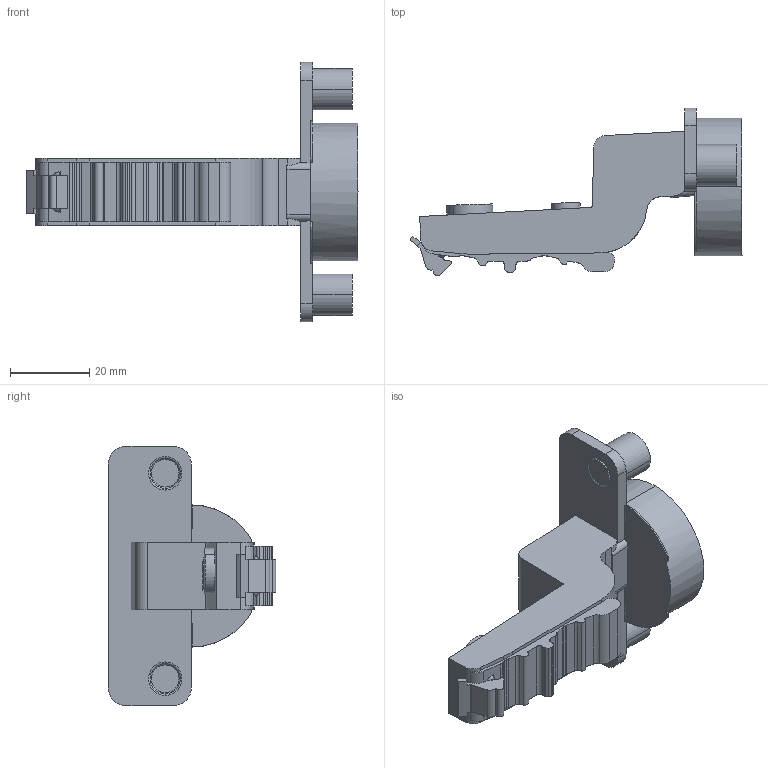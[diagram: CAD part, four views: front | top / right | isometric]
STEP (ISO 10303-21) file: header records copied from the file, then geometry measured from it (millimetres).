
FILE_DESCRIPTION (( 'STEP AP203' ), '1' );
FILE_NAME ('C82C677MFA-DTC 3D close.STEP', '2024-07-10T09:07:12', ( '微软用户' ), ( '微软中国' ), 'SwSTEP 2.0', 'SolidWorks 2021', '' );
FILE_SCHEMA (( 'CONFIG_CONTROL_DESIGN' ));
Length unit declared in the file: millimetre
Products named in the file (1): C82C677MFA-DTC 3D close
Bounding box: 84 x 42.33 x 65.56 mm (x, y, z)
Volume: 35880.2 mm3; surface area: 11415.9 mm2
Topology: 1 solids, 2 shells, 171 faces, 481 edges, 320 vertices
Faces by surface type: cylinder 74, plane 73, torus 12, bspline 8, cone 4
Entity records: 5884 total; most frequent: CARTESIAN_POINT 1375, ORIENTED_EDGE 962, DIRECTION 923, EDGE_CURVE 481, AXIS2_PLACEMENT_3D 334, VERTEX_POINT 320, LINE 255, VECTOR 255
